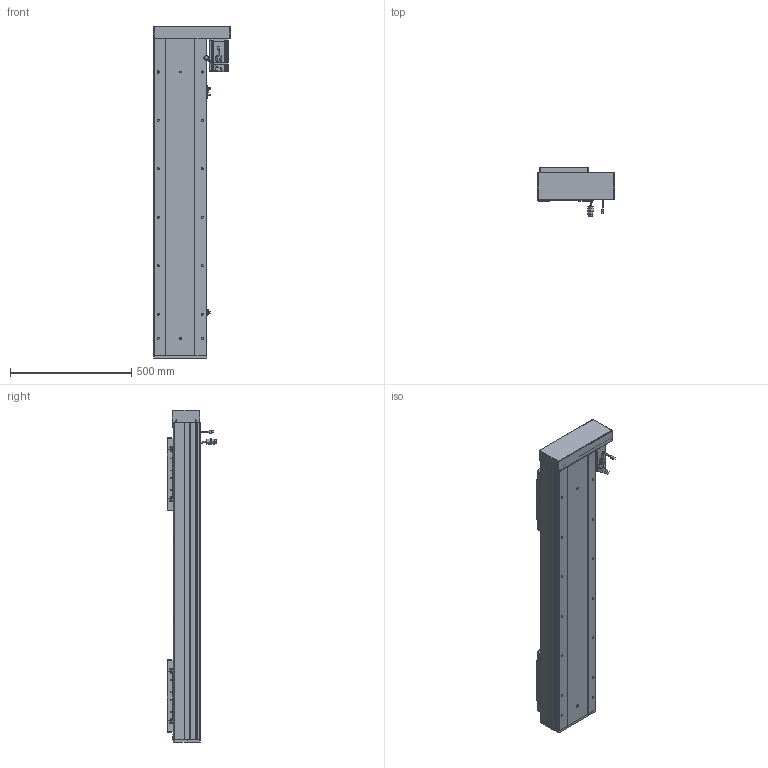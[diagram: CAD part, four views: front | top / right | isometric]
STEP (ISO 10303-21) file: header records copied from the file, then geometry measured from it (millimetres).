
FILE_DESCRIPTION (( 'STEP AP203' ), '1' );
FILE_NAME ('RY220F-L2525-300-RK.SLDASM_900.step', '2022-07-04T01:35:15', ( '' ), ( '' ), 'SwSTEP 2.0', 'SolidWorks 2016', '' );
FILE_SCHEMA (( 'CONFIG_CONTROL_DESIGN' ));
Length unit declared in the file: millimetre
Products named in the file (15): RY220F-詩湍揤踡輸; 覜茼ん672; RY220酘衵殏萇儂欶; RY220F綴裔啣; RY220F-L2525-300-RK.SLDASM_900; 滅袉蝶18-24; RY220F-滅鳥奻裔; RY220F-蛌殏奻裔啣-300_900; RY220F臏賑釱25-32佪裝; 怢湛750W_ECMA-CX0807ES; 侐源滅袉蝶; RY220F蛌殏菁釱-300_900; RY220F-672覜茼んえ; RY220F-祥凄詩湍-蛌殏-300_900; RY220左右折电机安装板
Assembly tree (24 placements, depth 2):
  RY220F-L2525-300-RK.SLDASM_900
    RY220F蛌殏菁釱-300_900
    RY220F-蛌殏奻裔啣-300_900  x2
    怢湛750W_ECMA-CX0807ES
    RY220F臏賑釱25-32佪裝  x2
    RY220F-滅鳥奻裔  x2
    滅袉蝶18-24  x3
    RY220F綴裔啣
    RY220F-祥凄詩湍-蛌殏-300_900
    RY220F-詩湍揤踡輸  x2
    覜茼ん672  x3
    RY220F-672覜茼んえ  x2
    RY220左右折电机安装板
    RY220酘衵殏萇儂欶
    侐源滅袉蝶  x2
Bounding box: 317.5 x 205.27 x 1371 mm (x, y, z)
Volume: 13791906.2 mm3; surface area: 3586866.2 mm2
Topology: 25 solids, 25 shells, 2720 faces, 7408 edges, 4598 vertices
Faces by surface type: cylinder 1222, plane 1044, cone 383, bspline 45, sphere 16, torus 10
Entity records: 67396 total; most frequent: CARTESIAN_POINT 18435, ORIENTED_EDGE 9910, DIRECTION 9584, EDGE_CURVE 4955, AXIS2_PLACEMENT_3D 3398, VERTEX_POINT 3214, LINE 2788, VECTOR 2788
